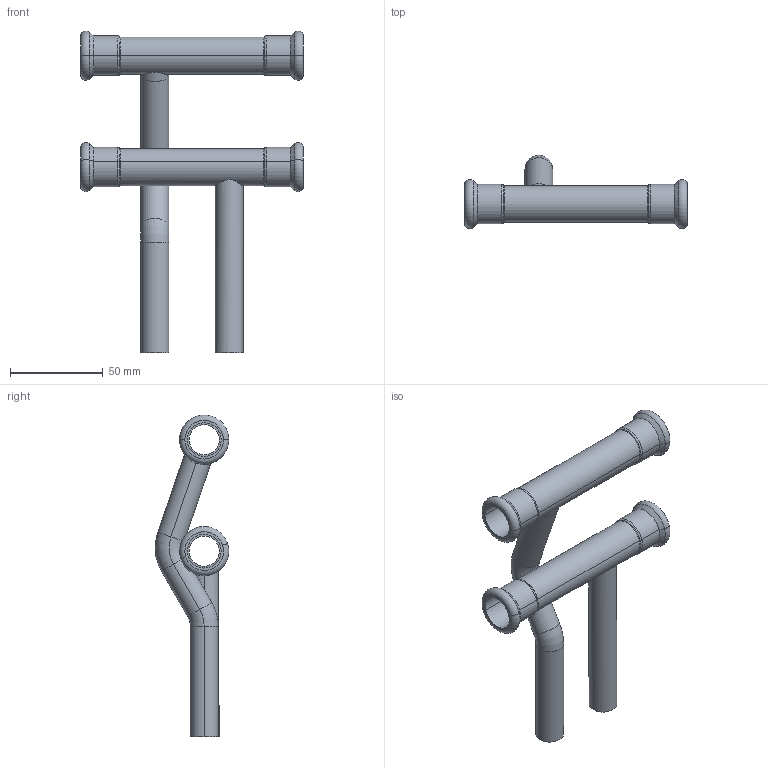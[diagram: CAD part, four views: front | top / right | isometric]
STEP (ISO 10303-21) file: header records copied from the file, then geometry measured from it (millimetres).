
FILE_DESCRIPTION(('CoCreate Modeling STEP Export'),'2;1');
FILE_NAME('C1437 18x15.stp','2015-08-13T 9:24:32',(''),(''),'CoCreate Modeling STEP processor for AP214 (Solid Model)','CoCreate Modeling 17.00A 17-Jun-2010 (C) Parametric Technology GmbH','');
FILE_SCHEMA(('AUTOMOTIVE_DESIGN { 1 0 10303 214 1 1 1 1 }'));
Length unit declared in the file: millimetre
Products named in the file (4): 620867.5.1.2; 620867.5.1.1.1; 620861.1.1.1; C1437-18x15
Assembly tree (3 placements, depth 2):
  C1437-18x15
    620861.1.1.1
    620867.5.1.1.1
    620867.5.1.2
Bounding box: 120 x 39.62 x 173.29 mm (x, y, z)
Volume: 40838.7 mm3; surface area: 51204.6 mm2
Topology: 3 solids, 3 shells, 112 faces, 238 edges, 142 vertices
Faces by surface type: cylinder 52, torus 24, plane 16, cone 16, bspline 4
Entity records: 7265 total; most frequent: CARTESIAN_POINT 5096, ORIENTED_EDGE 476, DIRECTION 376, EDGE_CURVE 238, AXIS2_PLACEMENT_3D 154, VERTEX_POINT 142, EDGE_LOOP 132, FACE_OUTER_BOUND 112
